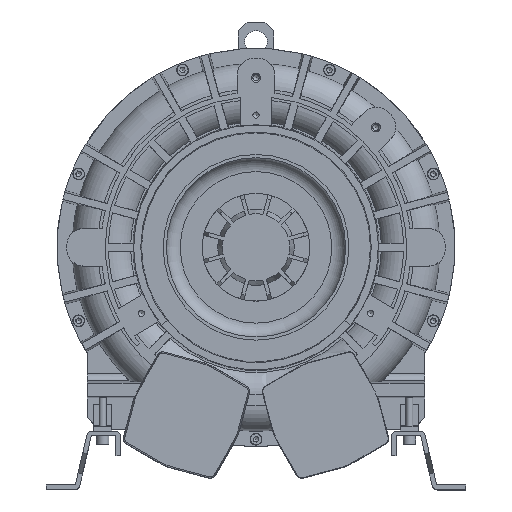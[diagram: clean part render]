
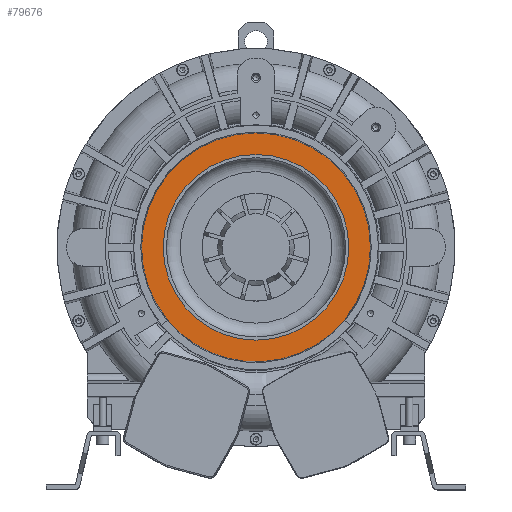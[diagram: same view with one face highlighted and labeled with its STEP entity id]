
A CAD part, top view. The second image highlights one B-rep face of the part: STEP entity #79676.
In plain terms, the highlighted planar face has unit normal (0, 0, 1).
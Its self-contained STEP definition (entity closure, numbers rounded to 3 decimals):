
#10624 = VERTEX_POINT ( 'NONE', #76708 ) ;
#10723 = AXIS2_PLACEMENT_3D ( 'NONE', #32246, #84792, #39515 ) ;
#13075 = FACE_OUTER_BOUND ( 'NONE', #43033, .T. ) ;
#13531 = PLANE ( 'NONE',  #18147 ) ;
#15348 = CIRCLE ( 'NONE', #10723, 103.5 ) ;
#18147 = AXIS2_PLACEMENT_3D ( 'NONE', #64203, #42538, #42048 ) ;
#19956 = ORIENTED_EDGE ( 'NONE', *, *, #75509, .F. ) ;
#20536 = DIRECTION ( 'NONE',  ( -1., 0., 0. ) ) ;
#27546 = FACE_BOUND ( 'NONE', #79989, .T. ) ;
#32246 = CARTESIAN_POINT ( 'NONE',  ( 0., 0., 196.5 ) ) ;
#35467 = CARTESIAN_POINT ( 'NONE',  ( 0., 0., 196.5 ) ) ;
#39515 = DIRECTION ( 'NONE',  ( 1., 0., 0. ) ) ;
#41848 = ORIENTED_EDGE ( 'NONE', *, *, #93161, .T. ) ;
#42048 = DIRECTION ( 'NONE',  ( -1., 0., 0. ) ) ;
#42538 = DIRECTION ( 'NONE',  ( 0., 0., -1. ) ) ;
#43033 = EDGE_LOOP ( 'NONE', ( #41848 ) ) ;
#44659 = VERTEX_POINT ( 'NONE', #58618 ) ;
#51375 = DIRECTION ( 'NONE',  ( 0., 0., 1. ) ) ;
#55732 = AXIS2_PLACEMENT_3D ( 'NONE', #35467, #51375, #20536 ) ;
#57308 = CIRCLE ( 'NONE', #55732, 127.694 ) ;
#58618 = CARTESIAN_POINT ( 'NONE',  ( 103.5, 0., 196.5 ) ) ;
#64203 = CARTESIAN_POINT ( 'NONE',  ( 0., 0., 196.5 ) ) ;
#75509 = EDGE_CURVE ( 'NONE', #44659, #44659, #15348, .T. ) ;
#76708 = CARTESIAN_POINT ( 'NONE',  ( -127.694, 0., 196.5 ) ) ;
#79676 = ADVANCED_FACE ( 'NONE', ( #27546, #13075 ), #13531, .F. ) ;
#79989 = EDGE_LOOP ( 'NONE', ( #19956 ) ) ;
#84792 = DIRECTION ( 'NONE',  ( 0., 0., 1. ) ) ;
#93161 = EDGE_CURVE ( 'NONE', #10624, #10624, #57308, .T. ) ;
